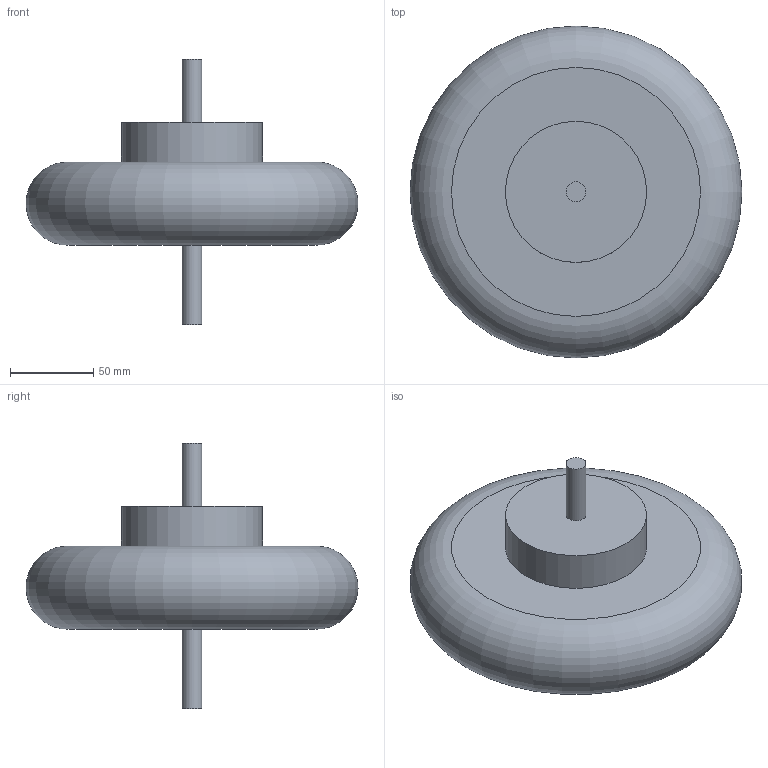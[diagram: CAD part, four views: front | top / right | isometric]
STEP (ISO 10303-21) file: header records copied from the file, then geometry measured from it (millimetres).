
FILE_DESCRIPTION(/* description */ ('STEP AP242','CAx-IF Rec.Pracs.---Representation and Presentation of Product Manufacturing Information (PMI)---4.0---2014-10-13','CAx-IF Rec.Pracs.---3D Tessellated Geometry---0.4---2014-09-14','2;1'),/* implementation_level */ '2;1');
FILE_NAME(/* name */ 'Assembly 1 - Part 1 (9)',/* time_stamp */ '2025-05-18T07:24:53Z',/* author */ (''),/* organization */ (''),/* preprocessor_version */ 'ST-DEVELOPER v20',/* originating_system */ 'ONSHAPE BY PTC INC, 1.198',/* authorisation */ ' ');
FILE_SCHEMA (('AP242_MANAGED_MODEL_BASED_3D_ENGINEERING_MIM_LF { 1 0 10303 442 1 1 4 }'));
Length unit declared in the file: metre
Products named in the file (1): Part 1
Bounding box: 199.98 x 199.98 x 160 mm (x, y, z)
Volume: 1557574.9 mm3; surface area: 89858.9 mm2
Topology: 1 solids, 1 shells, 9 faces, 13 edges, 9 vertices
Faces by surface type: plane 5, cylinder 3, torus 1
Full cylindrical faces by diameter (mm): 12 x2, 85 x1
Entity records: 196 total; most frequent: DIRECTION 36, CARTESIAN_POINT 26, AXIS2_PLACEMENT_3D 18, ORIENTED_EDGE 16, EDGE_LOOP 16, FACE_BOUND 16, ADVANCED_FACE 9, EDGE_CURVE 8
